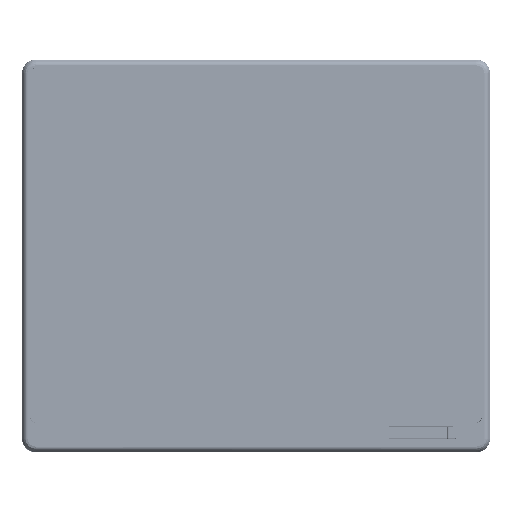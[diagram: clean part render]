
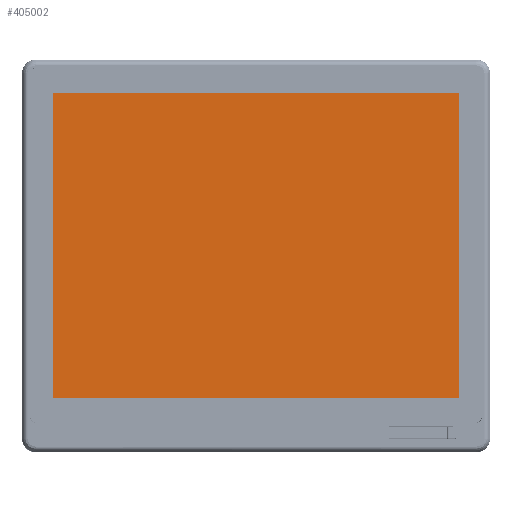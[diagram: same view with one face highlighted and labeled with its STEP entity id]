
A CAD part, top view. The second image highlights one B-rep face of the part: STEP entity #405002.
In plain terms, the highlighted planar face has unit normal (0, 0, 1).
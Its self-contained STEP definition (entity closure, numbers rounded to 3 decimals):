
#29799 = DIRECTION ( 'NONE',  ( 0., 0., 1. ) ) ;
#48670 = DIRECTION ( 'NONE',  ( 0., 1., 0. ) ) ;
#49771 = CARTESIAN_POINT ( 'NONE',  ( -323.31, -294.821, 486.625 ) ) ;
#66358 = LINE ( 'NONE', #522985, #534303 ) ;
#66651 = EDGE_LOOP ( 'NONE', ( #277255, #498020 ) ) ;
#72130 = EDGE_CURVE ( 'NONE', #474862, #461519, #119197, .T. ) ;
#107941 = CARTESIAN_POINT ( 'NONE',  ( -323.31, -63.521, 486.625 ) ) ;
#119197 = LINE ( 'NONE', #352695, #239756 ) ;
#123496 = LINE ( 'NONE', #329781, #229811 ) ;
#123740 = EDGE_CURVE ( 'NONE', #204148, #481183, #123496, .T. ) ;
#137507 = FACE_BOUND ( 'NONE', #66651, .T. ) ;
#145778 = EDGE_CURVE ( 'NONE', #461519, #204148, #550066, .T. ) ;
#151459 = DIRECTION ( 'NONE',  ( -1., 0., 0. ) ) ;
#157666 = DIRECTION ( 'NONE',  ( 0., 0., 1. ) ) ;
#168655 = DIRECTION ( 'NONE',  ( 0., 0., 1. ) ) ;
#171191 = EDGE_CURVE ( 'NONE', #517184, #537601, #444378, .T. ) ;
#204148 = VERTEX_POINT ( 'NONE', #581026 ) ;
#207994 = PLANE ( 'NONE',  #414325 ) ;
#229103 = CIRCLE ( 'NONE', #369670, 0.05 ) ;
#229811 = VECTOR ( 'NONE', #151459, 1000. ) ;
#239756 = VECTOR ( 'NONE', #443975, 1000. ) ;
#270615 = CARTESIAN_POINT ( 'NONE',  ( -15.91, -63.521, 486.625 ) ) ;
#275233 = CARTESIAN_POINT ( 'NONE',  ( -169.61, -179.221, 486.625 ) ) ;
#277255 = ORIENTED_EDGE ( 'NONE', *, *, #171191, .F. ) ;
#301182 = CARTESIAN_POINT ( 'NONE',  ( -323.31, -294.821, 486.625 ) ) ;
#308942 = VECTOR ( 'NONE', #48670, 1000. ) ;
#329781 = CARTESIAN_POINT ( 'NONE',  ( -323.31, -63.521, 486.625 ) ) ;
#337261 = ORIENTED_EDGE ( 'NONE', *, *, #465114, .T. ) ;
#346630 = DIRECTION ( 'NONE',  ( 1., 0., 0. ) ) ;
#352695 = CARTESIAN_POINT ( 'NONE',  ( -323.31, -294.821, 486.625 ) ) ;
#357247 = CARTESIAN_POINT ( 'NONE',  ( -15.91, -294.821, 486.625 ) ) ;
#364293 = FACE_OUTER_BOUND ( 'NONE', #400372, .T. ) ;
#369670 = AXIS2_PLACEMENT_3D ( 'NONE', #440169, #168655, #485766 ) ;
#398170 = EDGE_CURVE ( 'NONE', #537601, #517184, #229103, .T. ) ;
#400372 = EDGE_LOOP ( 'NONE', ( #337261, #466981, #485666, #426527 ) ) ;
#405002 = ADVANCED_FACE ( 'NONE', ( #364293, #137507 ), #207994, .T. ) ;
#414325 = AXIS2_PLACEMENT_3D ( 'NONE', #301182, #29799, #346630 ) ;
#426527 = ORIENTED_EDGE ( 'NONE', *, *, #123740, .T. ) ;
#429162 = CARTESIAN_POINT ( 'NONE',  ( -169.61, -179.171, 486.625 ) ) ;
#440169 = CARTESIAN_POINT ( 'NONE',  ( -169.61, -179.171, 486.625 ) ) ;
#443975 = DIRECTION ( 'NONE',  ( 1., 0., 0. ) ) ;
#444378 = CIRCLE ( 'NONE', #567870, 0.05 ) ;
#461519 = VERTEX_POINT ( 'NONE', #357247 ) ;
#465114 = EDGE_CURVE ( 'NONE', #481183, #474862, #66358, .T. ) ;
#466981 = ORIENTED_EDGE ( 'NONE', *, *, #72130, .T. ) ;
#474712 = DIRECTION ( 'NONE',  ( 0., -1., 0. ) ) ;
#474862 = VERTEX_POINT ( 'NONE', #49771 ) ;
#481183 = VERTEX_POINT ( 'NONE', #107941 ) ;
#485666 = ORIENTED_EDGE ( 'NONE', *, *, #145778, .T. ) ;
#485766 = DIRECTION ( 'NONE',  ( 0., -1., 0. ) ) ;
#493129 = CARTESIAN_POINT ( 'NONE',  ( -169.61, -179.121, 486.625 ) ) ;
#498020 = ORIENTED_EDGE ( 'NONE', *, *, #398170, .F. ) ;
#517184 = VERTEX_POINT ( 'NONE', #275233 ) ;
#522985 = CARTESIAN_POINT ( 'NONE',  ( -323.31, -63.521, 486.625 ) ) ;
#534303 = VECTOR ( 'NONE', #568548, 1000. ) ;
#537601 = VERTEX_POINT ( 'NONE', #493129 ) ;
#550066 = LINE ( 'NONE', #270615, #308942 ) ;
#567870 = AXIS2_PLACEMENT_3D ( 'NONE', #429162, #157666, #474712 ) ;
#568548 = DIRECTION ( 'NONE',  ( 0., -1., 0. ) ) ;
#581026 = CARTESIAN_POINT ( 'NONE',  ( -15.91, -63.521, 486.625 ) ) ;
